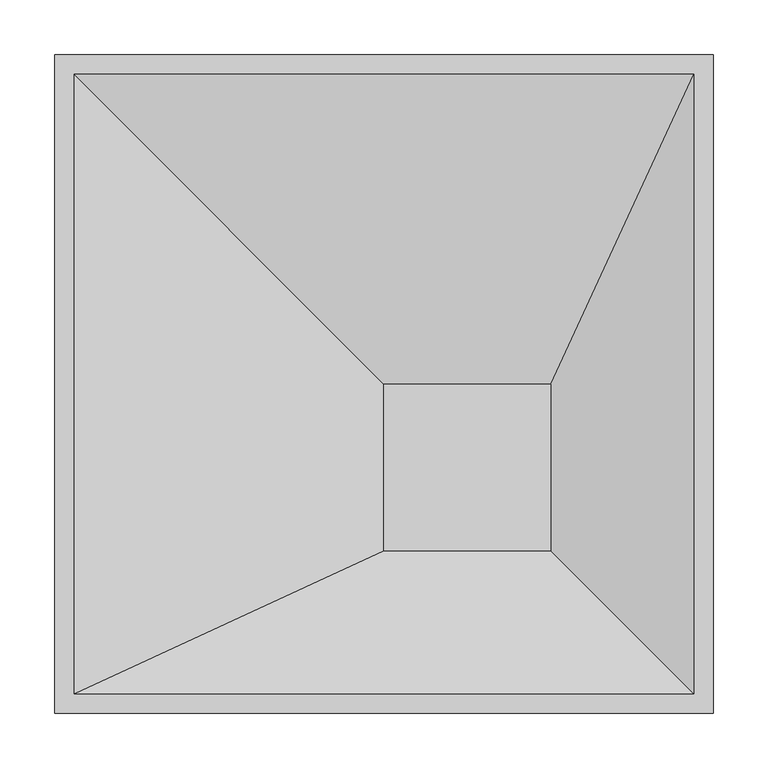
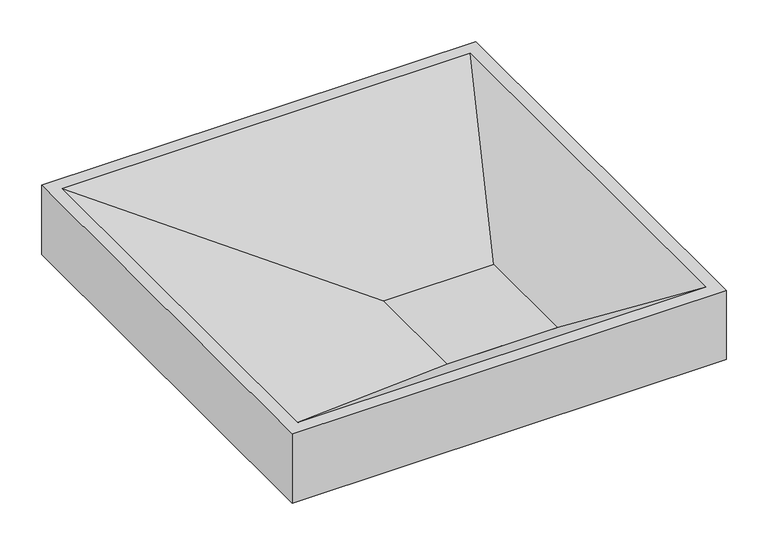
"""IFC4 building model written with IfcOpenShell, lengths in millimetres: proxy geometry, Turf_Pantheon Tile : Pantheon E2."""

import ifcopenshell
import ifcopenshell.guid

model = None  # the IFC model being written
_history = None  # IfcOwnerHistory: only IFC2X3 demands one
_inside = {}  # id of a spatial element -> (the spatial element, [elements in it])
_under = {}  # id of a project, library or spatial element -> (it, [spatial elements below it])
_declared = {}  # id of a project -> (the project, [libraries it declares])
_typed = {}  # id of a type object -> (the type object, [elements of that type])
_made_of = {}  # id of a material, layer set ... -> (it, [elements and type objects made of it])


def new_model(schema):
    """Start an empty IFC model of exactly this schema.

    Asked for "IFC4X3", IfcOpenShell would pick the latest addendum, in which some entities
    have other attributes; the version numbers below select the first issue.
    IFC2X3 requires an IfcOwnerHistory on every rooted entity: one is made here for all.
    """
    global model, _history
    if schema == "IFC4X3":
        model = ifcopenshell.file(schema_version=(4, 3, 0, 0))
    else:
        model = ifcopenshell.file(schema=schema)
    _inside.clear()
    _under.clear()
    _declared.clear()
    _typed.clear()
    _made_of.clear()
    _history = None
    if model.schema == "IFC2X3":
        org = make("IfcOrganization", Name="unknown")
        user = make(
            "IfcPersonAndOrganization",
            ThePerson=make("IfcPerson", FamilyName="unknown"),
            TheOrganization=org,
        )
        app = make(
            "IfcApplication",
            ApplicationDeveloper=org,
            Version="unknown",
            ApplicationFullName="unknown",
            ApplicationIdentifier="unknown",
        )
        _history = make(
            "IfcOwnerHistory",
            OwningUser=user,
            OwningApplication=app,
            ChangeAction="ADDED",
            CreationDate=0,
        )
    return model


def make(cls, **values):
    """One entity of the class cls with the attributes given. An attribute that is None is left unset."""
    return model.create_entity(
        cls, **{name: value for name, value in values.items() if value is not None}
    )


def rooted(cls, **values):
    """An entity with a GlobalId (a new one), such as an element, a storey or a relation."""
    return make(cls, GlobalId=ifcopenshell.guid.new(), OwnerHistory=_history, **values)


def si_unit(unit_type, name, prefix=None):
    """IfcSIUnit, for example si_unit("LENGTHUNIT", "METRE", prefix="MILLI")."""
    return make("IfcSIUnit", UnitType=unit_type, Prefix=prefix, Name=name)


def assignment(units):
    """IfcUnitAssignment: the units of a project."""
    return None if units is None else make("IfcUnitAssignment", Units=units)


def point(xyz):
    """IfcCartesianPoint."""
    return None if xyz is None else make("IfcCartesianPoint", Coordinates=xyz)


def direction(xyz):
    """IfcDirection."""
    return None if xyz is None else make("IfcDirection", DirectionRatios=xyz)


def frame(location, z_axis=None, x_axis=None):
    """IfcAxis2Placement3D, a coordinate frame: its origin and axes. An axis left out is left unset."""
    return make(
        "IfcAxis2Placement3D",
        Location=point(location),
        Axis=direction(z_axis),
        RefDirection=direction(x_axis),
    )


def origin():
    """The frame at (0, 0, 0) with its axes left unset."""
    return frame((0.0, 0.0, 0.0))


def origin_with_axes():
    """The frame at (0, 0, 0) with the z axis (0, 0, 1) and the x axis (1, 0, 0) written out."""
    return frame((0.0, 0.0, 0.0), z_axis=(0.0, 0.0, 1.0), x_axis=(1.0, 0.0, 0.0))


def place(relative_to, where):
    """IfcLocalPlacement: puts the frame where relative to a parent placement (None: the world)."""
    return make(
        "IfcLocalPlacement", PlacementRelTo=relative_to, RelativePlacement=where
    )


def context(
    kind, dimensions, precision=None, world=None, true_north=None, identifier=None
):
    """IfcGeometricRepresentationContext, for example the 3D "Model" context."""
    return make(
        "IfcGeometricRepresentationContext",
        ContextIdentifier=identifier,
        ContextType=kind,
        CoordinateSpaceDimension=dimensions,
        Precision=precision,
        WorldCoordinateSystem=world,
        TrueNorth=true_north,
    )


def project(units=None, contexts=None):
    """IfcProject with its units and contexts."""
    return rooted(
        "IfcProject",
        Name="project",
        RepresentationContexts=contexts,
        UnitsInContext=assignment(units),
    )


def spatial(cls, under=None, at=None, **own):
    """A site, building, storey or space (cls), placed at a placement, below another one or the project."""
    s = rooted(cls, ObjectPlacement=at, **own)
    if under is not None:
        _under.setdefault(under.id(), (under, []))[1].append(s)
    return s


def polyline(points):
    """IfcPolyline through the points."""
    return make("IfcPolyline", Points=[point(p) for p in points])


def outline(outer, holes=None, kind="AREA"):
    """IfcArbitraryClosedProfileDef: a profile drawn as a closed curve; with holes, ...WithVoids."""
    if holes is None:
        return make("IfcArbitraryClosedProfileDef", ProfileType=kind, OuterCurve=outer)
    return make(
        "IfcArbitraryProfileDefWithVoids",
        ProfileType=kind,
        OuterCurve=outer,
        InnerCurves=holes,
    )


def extrude(swept, where, along, depth):
    """IfcExtrudedAreaSolid: the profile swept, set in the frame where, extruded along a direction by depth."""
    return make(
        "IfcExtrudedAreaSolid",
        SweptArea=swept,
        Position=where,
        ExtrudedDirection=direction(along),
        Depth=depth,
    )


def faces_of(points, faces, orient=None, outer=None):
    """IfcFace entities. A face is a list of loops; a loop is a list of indices into points, from 0.

    orient and outer hold one flag for each loop. By default every Orientation is true, the
    first loop of a face is its IfcFaceOuterBound and the others are IfcFaceBound.
    """
    made = []
    for i, loops in enumerate(faces):
        bounds = []
        for j, loop in enumerate(loops):
            is_outer = j == 0 if outer is None else outer[i][j]
            bounds.append(
                make(
                    "IfcFaceOuterBound" if is_outer else "IfcFaceBound",
                    Bound=make("IfcPolyLoop", Polygon=[points[k] for k in loop]),
                    Orientation=True if orient is None else orient[i][j],
                )
            )
        made.append(make("IfcFace", Bounds=bounds))
    return made


def faceted_brep(points, faces, orient=None, outer=None, voids=None):
    """IfcFacetedBrep: a solid bounded by flat faces; with voids (closed shells), ...WithVoids."""
    shared = [point(p) for p in points]
    hull = make("IfcClosedShell", CfsFaces=faces_of(shared, faces, orient, outer))
    if voids is None:
        return make("IfcFacetedBrep", Outer=hull)
    return make(
        "IfcFacetedBrepWithVoids",
        Outer=hull,
        Voids=[
            make(cls, CfsFaces=faces_of(shared, fs, o, b)) for cls, fs, o, b in voids
        ],
    )


def shape(context_of_items, identifier, shape_type, items):
    """IfcShapeRepresentation: the items that make up one representation, for example the "Body"."""
    return make(
        "IfcShapeRepresentation",
        ContextOfItems=context_of_items,
        RepresentationIdentifier=identifier,
        RepresentationType=shape_type,
        Items=items,
    )


def source(mapping_origin, context_of_items, identifier, shape_type, items):
    """IfcRepresentationMap: a shape defined once, which mapped items show again and again."""
    return make(
        "IfcRepresentationMap",
        MappingOrigin=mapping_origin,
        MappedRepresentation=shape(context_of_items, identifier, shape_type, items),
    )


def transform(
    local_origin,
    x_axis=None,
    y_axis=None,
    z_axis=None,
    scale=None,
    scale2=None,
    scale3=None,
    uniform=True,
):
    """IfcCartesianTransformationOperator3D, or its non-uniform kind. x_axis, y_axis, z_axis: its Axis1, 2, 3."""
    if uniform:
        return make(
            "IfcCartesianTransformationOperator3D",
            Axis1=direction(x_axis),
            Axis2=direction(y_axis),
            LocalOrigin=point(local_origin),
            Scale=scale,
            Axis3=direction(z_axis),
        )
    return make(
        "IfcCartesianTransformationOperator3DnonUniform",
        Axis1=direction(x_axis),
        Axis2=direction(y_axis),
        LocalOrigin=point(local_origin),
        Scale=scale,
        Axis3=direction(z_axis),
        Scale2=scale2,
        Scale3=scale3,
    )


def mapped(mapping_source, mapping_target):
    """IfcMappedItem: shows the shape of a source again, moved by a transform."""
    return make(
        "IfcMappedItem", MappingSource=mapping_source, MappingTarget=mapping_target
    )


def made_of(thing, what):
    """Note that an element or type object is made of a material, layer set ...; save() writes the relation."""
    if what is not None:
        _made_of.setdefault(what.id(), (what, []))[1].append(thing)
    return thing


def element(
    cls,
    number,
    at=None,
    inside=None,
    cuts=None,
    type_object=None,
    material=None,
    context=None,
    identifier="Body",
    shape_type=None,
    held_by="IfcProductDefinitionShape",
    body=None,
    shapes=None,
    **own,
):
    """One element of the class cls, such as IfcWall. Its Tag is "e" and its number.

    at: its placement. inside: the storey or other place that contains it. cuts: it is an
    opening in that element (IfcRelVoidsElement). A single representation is given by context,
    identifier, shape_type and body (its items); several are given by shapes. held_by: the class
    of the entity that holds the representations. save() writes the other relations.
    """
    e = rooted(cls, Tag="e%d" % number, ObjectPlacement=at, **own)
    if body is not None:
        shapes = [shape(context, identifier, shape_type, body)]
    if shapes is not None:
        e.Representation = make(held_by, Representations=shapes)
    if inside is not None:
        _inside.setdefault(inside.id(), (inside, []))[1].append(e)
    if cuts is not None:
        rooted(
            "IfcRelVoidsElement", RelatingBuildingElement=cuts, RelatedOpeningElement=e
        )
    if type_object is not None:
        _typed.setdefault(type_object.id(), (type_object, []))[1].append(e)
    return made_of(e, material)


def aggregate(whole, parts):
    """IfcRelAggregates: a whole, such as a stair, and the parts it consists of."""
    return rooted("IfcRelAggregates", RelatingObject=whole, RelatedObjects=parts)


def save(model, path):
    """Write the relations noted so far, then the file.

    IfcRelAggregates (storeys below a building ...), IfcRelContainedInSpatialStructure (elements
    in a storey), IfcRelDefinesByType, IfcRelAssociatesMaterial and IfcRelDeclares: one each for
    every whole, place, type object, material and project.
    """
    for whole, parts in _under.values():
        aggregate(whole, parts)
    for where, things in _inside.values():
        rooted(
            "IfcRelContainedInSpatialStructure",
            RelatedElements=things,
            RelatingStructure=where,
        )
    for kind, things in _typed.values():
        rooted("IfcRelDefinesByType", RelatedObjects=things, RelatingType=kind)
    for what, things in _made_of.values():
        rooted("IfcRelAssociatesMaterial", RelatedObjects=things, RelatingMaterial=what)
    for by, libraries in _declared.values():
        rooted("IfcRelDeclares", RelatingContext=by, RelatedDefinitions=libraries)
    model.write(path)


def specialty_equipment_e2841fff(model_context):
    return source(origin(), model_context, "Body", "SolidModel", [
        extrude(outline(polyline([(196.05625, -495.3), (43.65625, -495.3), (43.65625, -342.9), (196.05625, -342.9), (196.05625, -495.3)])), origin_with_axes(), (0.0, 0.0, 1.0), 9.0289063),
        faceted_brep([(196.05625, -495.3, 9.0289062), (326.5289063, -625.7726563, 101.6), (326.5289063, -60.0273438, 101.6), (196.05625, -342.9, 9.0289062), (-239.2164062, -60.0273438, 101.6), (43.65625, -342.9, 9.0289062), (-239.2164062, -625.7726563, 101.6), (43.65625, -495.3, 9.0289062), (344.4875, -42.06875, 101.6), (-257.175, -42.06875, 101.6), (-257.175, -643.73125, 101.6), (344.4875, -643.73125, 101.6), (344.4875, -42.06875, 0.0), (344.4875, -643.73125, 0.0), (-257.175, -643.73125, 0.0), (-257.175, -42.06875, 0.0), (196.05625, -495.3, 0.0), (196.05625, -342.9, 0.0), (43.65625, -342.9, 0.0), (43.65625, -495.3, 0.0)], [[[0, 1, 2, 3]], [[3, 2, 4, 5]], [[5, 4, 6, 7]], [[1, 0, 7, 6]], [[8, 9, 10, 11], [2, 1, 6, 4]], [[12, 13, 14, 15], [16, 17, 18, 19]], [[9, 8, 12, 15]], [[10, 9, 15, 14]], [[11, 10, 14, 13]], [[8, 11, 13, 12]], [[3, 17, 16, 0]], [[17, 3, 5, 18]], [[18, 5, 7, 19]], [[0, 16, 19, 7]]]),
    ])


if __name__ == "__main__":
    model = new_model("IFC4")
    model_context = context("Model", 3, world=origin())
    ifc_project = project(units=[si_unit("LENGTHUNIT", "METRE", prefix="MILLI")], contexts=[model_context])
    site = spatial("IfcSite", under=ifc_project)
    building = spatial("IfcBuilding", under=site)
    placement = place(None, origin())
    specialty_equipment_shape = specialty_equipment_e2841fff(model_context)
    element("IfcBuildingElementProxy", 1, Name="Turf_Pantheon Tile : Pantheon E2", ObjectType="Turf_Pantheon Tile : Pantheon E2", at=placement, inside=building, context=model_context, shape_type="MappedRepresentation", body=[
        mapped(specialty_equipment_shape, transform((0.0, 0.0, 0.0), x_axis=(1.0, 0.0, 0.0), y_axis=(0.0, 1.0, 0.0), z_axis=(0.0, 0.0, 1.0))),
    ])
    save(model, "model.ifc")
